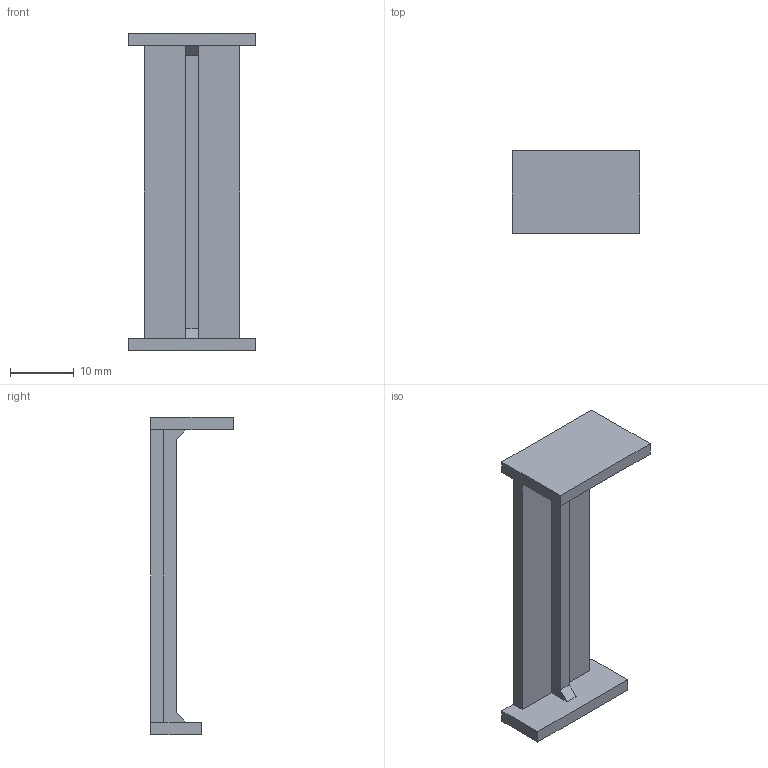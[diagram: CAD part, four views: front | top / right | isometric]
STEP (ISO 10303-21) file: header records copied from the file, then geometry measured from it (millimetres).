
FILE_DESCRIPTION (( 'STEP AP214' ), '1' );
FILE_NAME ('002390.STEP', '2022-02-21T08:21:34', ( '' ), ( '' ), 'SwSTEP 2.0', 'SolidWorks 2021', '' );
FILE_SCHEMA (( 'AUTOMOTIVE_DESIGN' ));
Length unit declared in the file: millimetre
Products named in the file (1): 002390
Bounding box: 20 x 13 x 50 mm (x, y, z)
Volume: 2408.7 mm3; surface area: 2765.1 mm2
Topology: 1 solids, 1 shells, 20 faces, 54 edges, 36 vertices
Faces by surface type: plane 20
Entity records: 652 total; most frequent: CARTESIAN_POINT 111, ORIENTED_EDGE 108, DIRECTION 96, LINE 54, VECTOR 54, EDGE_CURVE 54, VERTEX_POINT 36, AXIS2_PLACEMENT_3D 21
